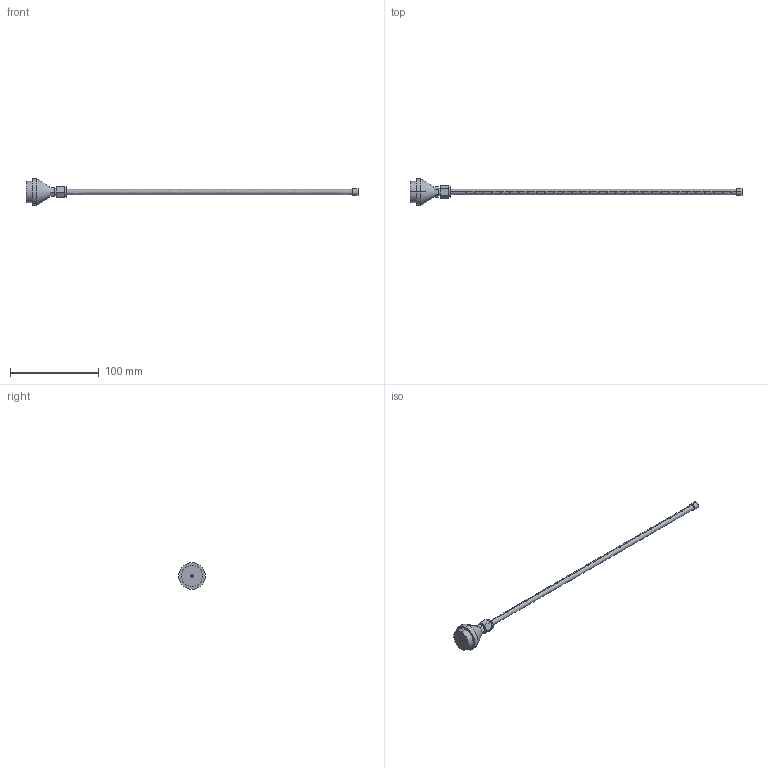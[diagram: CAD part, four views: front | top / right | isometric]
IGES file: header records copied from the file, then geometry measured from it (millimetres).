
Start section: SolidWorks IGES FILE using analytic representation for surfaces
Global section: file name: \\intra-srv04\開発データ\CAD_Data\CAD委員会\3D電子ｶﾀﾛｸﾞ\製品カタログ（新）\0_IGES\ER-AB30.IGS,41HSolidWorks 2004; native system: by SolidWorks Corporation; preprocessor: Version 5.3; author: mf1158; date: 050905.093349; units: millimetre
Bounding box: 375 x 30 x 30 mm (x, y, z)
Volume: 20897.2 mm3; surface area: 13672.1 mm2
Topology: 1 solids, 1 shells, 105 faces, 340 edges, 182 vertices
Faces by surface type: revolution 78, plane 27
